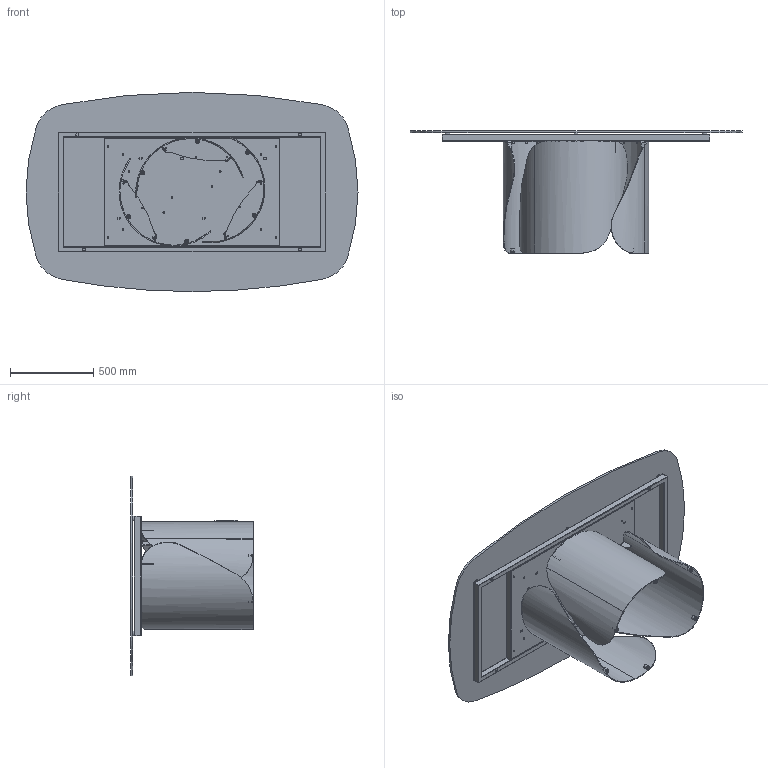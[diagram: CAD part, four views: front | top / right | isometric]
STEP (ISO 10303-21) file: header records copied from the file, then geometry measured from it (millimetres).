
FILE_DESCRIPTION (( 'STEP AP203' ), '1' );
FILE_NAME ('ON41G.STEP', '2024-08-06T13:53:31', ( '' ), ( '' ), 'SwSTEP 2.0', 'SolidWorks 2022', '' );
FILE_SCHEMA (( 'CONFIG_CONTROL_DESIGN' ));
Length unit declared in the file: millimetre
Products named in the file (15): OND000000-03-ONDA BASE GREZZA; TTAV0601-00-TELAIO X TAVOLI PLAI ONDA NOA 240cm_TTAV06; C4XCRXX-00-Piani Sagomati in Cristallo_2000x1200; ON41G; OND000000_03-00-LAMIERA CURVATA PRINCIPALE_OND00000X-00-ONDA BASE GREZZA PROTOTIPO; TTAV0601_02-00-VASSOIO TAVOLI PLAI ONDA NOA 240; COLLO TELAIO UNIVERSALE TTAV0601 CON FERRAMENTA_FERRAMENTA MTG TOP CRISTALLO VERNICIATO-CERAMICA; TTAV0601_01-00-STRUTTURA X TAVOLI PLAI ONDA NOA 240; OND000000_02-00-CILINDRO DI FISSAGGIO Ø25X17 M8; OND000000_01-00-PIASTRA SUPERIORE BASE ONDA; rondella M8_8X24; 434070-00-PIEDINO TPV GOMMA NERO D. 30x8max18_filo estetico; M8xXXmm_M8x20mm; COLLO BASE ONDA SINGOLA CON FERRAMENTA; PIEDINO PER ONDA
Assembly tree (45 placements, depth 4):
  ON41G
    COLLO TELAIO UNIVERSALE TTAV0601 CON FERRAMENTA_FERRAMENTA MTG TOP CRISTALLO VERNICIATO-CERAMICA
      TTAV0601-00-TELAIO X TAVOLI PLAI ONDA NOA 240cm_TTAV06
        TTAV0601_02-00-VASSOIO TAVOLI PLAI ONDA NOA 240
        TTAV0601_01-00-STRUTTURA X TAVOLI PLAI ONDA NOA 240
      434070-00-PIEDINO TPV GOMMA NERO D. 30x8max18_filo estetico  x6
    COLLO BASE ONDA SINGOLA CON FERRAMENTA  x3
      OND000000-03-ONDA BASE GREZZA
        OND000000_03-00-LAMIERA CURVATA PRINCIPALE_OND00000X-00-ONDA BASE GREZZA PROTOTIPO
        OND000000_01-00-PIASTRA SUPERIORE BASE ONDA
        OND000000_02-00-CILINDRO DI FISSAGGIO Ø25X17 M8  x2
      PIEDINO PER ONDA
    rondella M8_8X24  x12
    M8xXXmm_M8x20mm  x12
    C4XCRXX-00-Piani Sagomati in Cristallo_2000x1200
Bounding box: 2000 x 738 x 1200 mm (x, y, z)
Volume: 38929235 mm3; surface area: 10696208.8 mm2
Topology: 63 solids, 63 shells, 1552 faces, 3512 edges, 2116 vertices
Faces by surface type: plane 578, cylinder 502, cone 212, torus 192, bspline 60, sphere 8
Entity records: 21376 total; most frequent: CARTESIAN_POINT 4830, DIRECTION 3083, ORIENTED_EDGE 2824, EDGE_CURVE 1412, AXIS2_PLACEMENT_3D 1159, VERTEX_POINT 864, VECTOR 765, LINE 765
